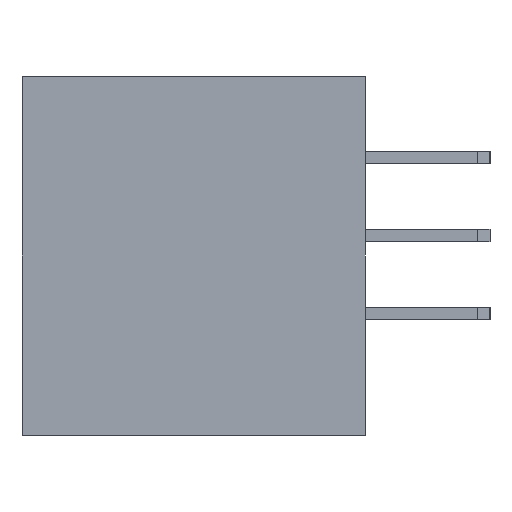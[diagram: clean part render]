
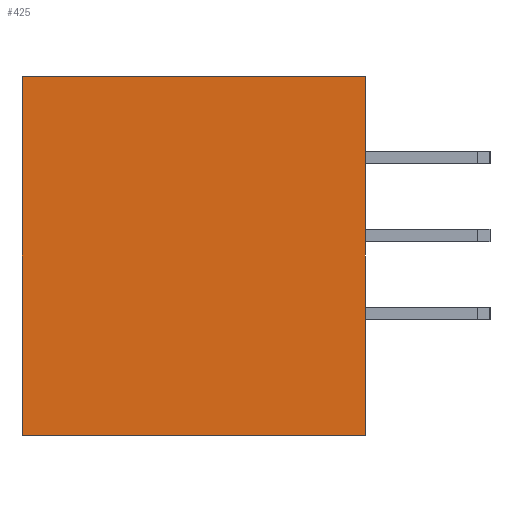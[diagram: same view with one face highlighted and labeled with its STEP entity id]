
A CAD part, left-side view. The second image highlights one B-rep face of the part: STEP entity #425.
In plain terms, the highlighted planar face has unit normal (-1, 0, 0).
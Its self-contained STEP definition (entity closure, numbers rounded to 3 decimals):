
#11 = EDGE_LOOP ( 'NONE', ( #145, #147, #146, #148 ) ) ;
#145 = ORIENTED_EDGE ( 'NONE', *, *, #529, .T. ) ;
#146 = ORIENTED_EDGE ( 'NONE', *, *, #537, .F. ) ;
#147 = ORIENTED_EDGE ( 'NONE', *, *, #495, .F. ) ;
#148 = ORIENTED_EDGE ( 'NONE', *, *, #405, .T. ) ;
#169 = VERTEX_POINT ( 'NONE', #703 ) ;
#198 = VECTOR ( 'NONE', #1082, 1000. ) ;
#203 = VECTOR ( 'NONE', #1028, 1000. ) ;
#209 = VECTOR ( 'NONE', #1106, 1000. ) ;
#352 = VECTOR ( 'NONE', #720, 1000. ) ;
#373 = FACE_OUTER_BOUND ( 'NONE', #11, .T. ) ;
#375 = AXIS2_PLACEMENT_3D ( 'NONE', #785, #786, #787 ) ;
#405 = EDGE_CURVE ( 'NONE', #654, #680, #718, .T. ) ;
#425 = ADVANCED_FACE ( 'NONE', ( #373 ), #784, .F. ) ;
#495 = EDGE_CURVE ( 'NONE', #169, #685, #1026, .T. ) ;
#529 = EDGE_CURVE ( 'NONE', #680, #685, #1080, .T. ) ;
#537 = EDGE_CURVE ( 'NONE', #654, #169, #1104, .T. ) ;
#654 = VERTEX_POINT ( 'NONE', #1192 ) ;
#680 = VERTEX_POINT ( 'NONE', #1218 ) ;
#685 = VERTEX_POINT ( 'NONE', #1223 ) ;
#703 = CARTESIAN_POINT ( 'NONE',  ( -15.35, 11., 5.75 ) ) ;
#718 = LINE ( 'NONE', #719, #352 ) ;
#719 = CARTESIAN_POINT ( 'NONE',  ( -15.35, 11., -5.75 ) ) ;
#720 = DIRECTION ( 'NONE',  ( 0., -1., 0. ) ) ;
#784 = PLANE ( 'NONE',  #375 ) ;
#785 = CARTESIAN_POINT ( 'NONE',  ( -15.35, 11., 5.75 ) ) ;
#786 = DIRECTION ( 'NONE',  ( 1., 0., 0. ) ) ;
#787 = DIRECTION ( 'NONE',  ( 0., 0., -1. ) ) ;
#1026 = LINE ( 'NONE', #1027, #203 ) ;
#1027 = CARTESIAN_POINT ( 'NONE',  ( -15.35, 11., 5.75 ) ) ;
#1028 = DIRECTION ( 'NONE',  ( 0., -1., 0. ) ) ;
#1080 = LINE ( 'NONE', #1081, #198 ) ;
#1081 = CARTESIAN_POINT ( 'NONE',  ( -15.35, 0., 5.75 ) ) ;
#1082 = DIRECTION ( 'NONE',  ( 0., 0., 1. ) ) ;
#1104 = LINE ( 'NONE', #1105, #209 ) ;
#1105 = CARTESIAN_POINT ( 'NONE',  ( -15.35, 11., 5.75 ) ) ;
#1106 = DIRECTION ( 'NONE',  ( 0., 0., 1. ) ) ;
#1192 = CARTESIAN_POINT ( 'NONE',  ( -15.35, 11., -5.75 ) ) ;
#1218 = CARTESIAN_POINT ( 'NONE',  ( -15.35, 0., -5.75 ) ) ;
#1223 = CARTESIAN_POINT ( 'NONE',  ( -15.35, 0., 5.75 ) ) ;
